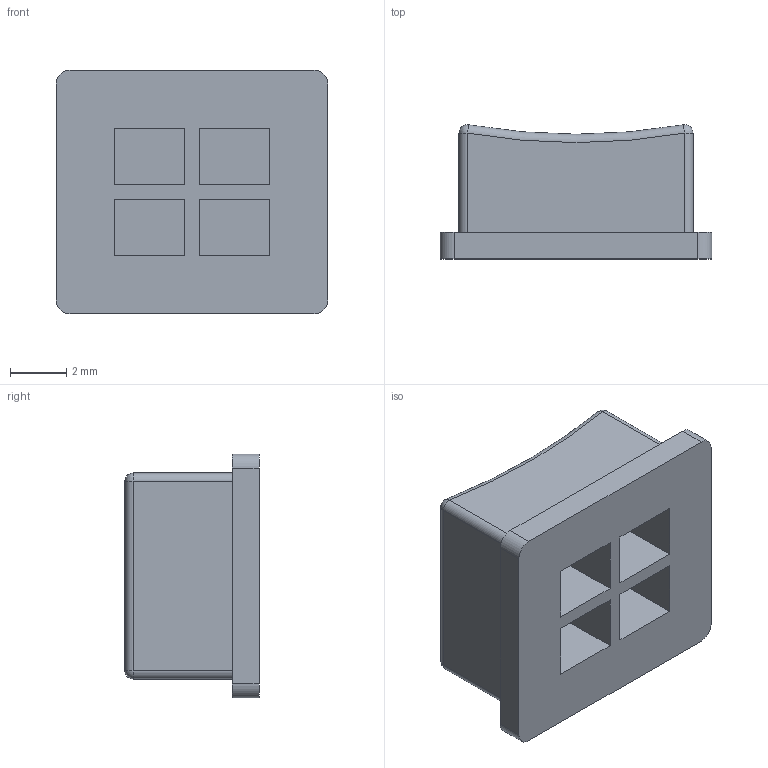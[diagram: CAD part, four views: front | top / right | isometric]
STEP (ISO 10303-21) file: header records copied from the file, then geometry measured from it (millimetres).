
FILE_DESCRIPTION(/* description */ (''),/* implementation_level */ '2;1');
FILE_NAME(/* name */ 'EZDeliveryKeyCap.stp',/* time_stamp */ '2026-02-20T20:54:18+01:00',/* author */ ('offt'),/* organization */ (''),/* preprocessor_version */ 'ST-DEVELOPER v20',/* originating_system */ 'Autodesk Inventor 2024',/* authorisation */ '');
FILE_SCHEMA (('AUTOMOTIVE_DESIGN { 1 0 10303 214 3 1 1 }'));
Length unit declared in the file: millimetre
Products named in the file (1): EZDeliveryKeyCap
Bounding box: 9.7 x 4.79 x 8.7 mm (x, y, z)
Volume: 231.9 mm3; surface area: 439.9 mm2
Topology: 1 solids, 1 shells, 47 faces, 108 edges, 68 vertices
Faces by surface type: plane 30, cylinder 11, sphere 4, torus 2
Entity records: 1357 total; most frequent: DIRECTION 232, CARTESIAN_POINT 224, ORIENTED_EDGE 216, EDGE_CURVE 108, LINE 80, VECTOR 80, AXIS2_PLACEMENT_3D 76, VERTEX_POINT 68
